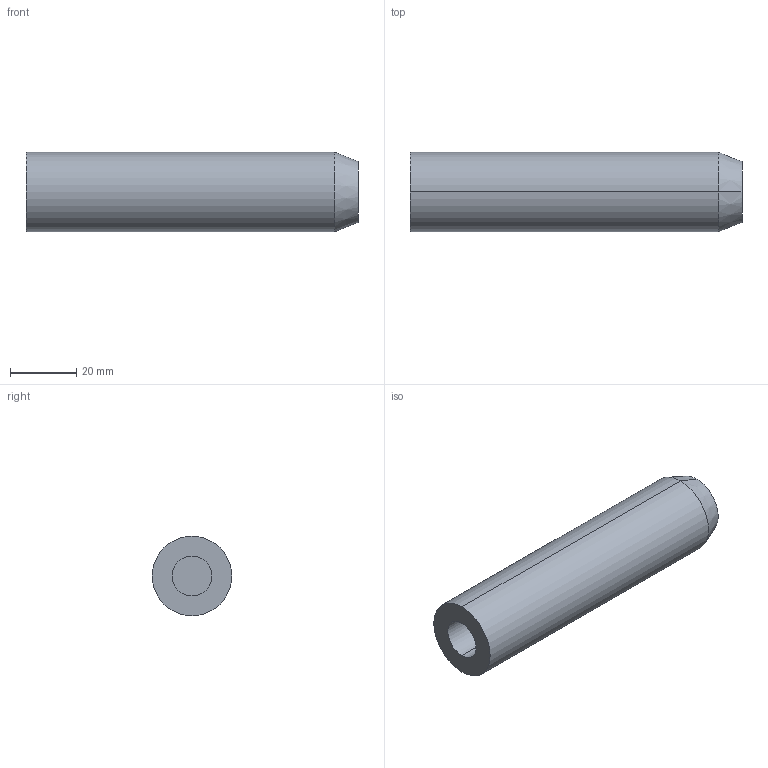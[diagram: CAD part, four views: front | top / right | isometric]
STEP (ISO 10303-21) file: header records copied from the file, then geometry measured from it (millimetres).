
FILE_DESCRIPTION (( 'STEP AP214' ), '1' );
FILE_NAME ('BR1034-24x100 .STEP', '2021-06-14T09:14:25', ( '' ), ( '' ), 'SwSTEP 2.0', 'SolidWorks 2018', '' );
FILE_SCHEMA (( 'AUTOMOTIVE_DESIGN' ));
Length unit declared in the file: millimetre
Products named in the file (1): BR1034-24x100 
Bounding box: 100 x 24 x 24 mm (x, y, z)
Volume: 40241 mm3; surface area: 9726.3 mm2
Topology: 1 solids, 1 shells, 12 faces, 22 edges, 14 vertices
Faces by surface type: cylinder 6, plane 4, cone 2
Entity records: 338 total; most frequent: DIRECTION 62, CARTESIAN_POINT 49, ORIENTED_EDGE 44, AXIS2_PLACEMENT_3D 27, EDGE_CURVE 22, CIRCLE 14, EDGE_LOOP 14, VERTEX_POINT 14
